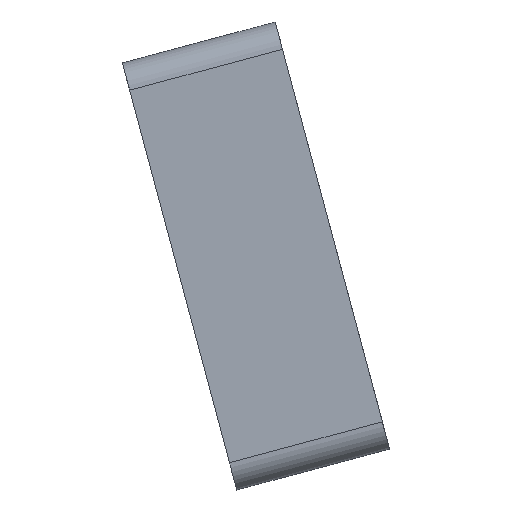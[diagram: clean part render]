
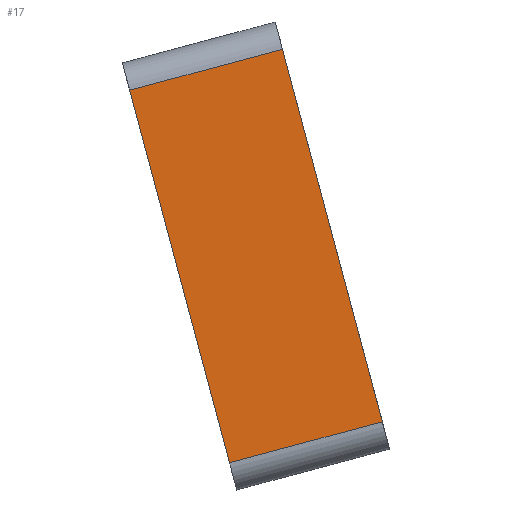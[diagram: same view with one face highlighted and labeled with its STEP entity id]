
A CAD part, left-side view. The second image highlights one B-rep face of the part: STEP entity #17.
In plain terms, the highlighted planar face has unit normal (-1, 0, 0).
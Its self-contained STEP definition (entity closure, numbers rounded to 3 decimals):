
#17 = ADVANCED_FACE('',(#18),#32,.F.);
#18 = FACE_BOUND('',#19,.F.);
#19 = EDGE_LOOP('',(#20,#55,#83,#111));
#20 = ORIENTED_EDGE('',*,*,#21,.F.);
#21 = EDGE_CURVE('',#22,#24,#26,.T.);
#22 = VERTEX_POINT('',#23);
#23 = CARTESIAN_POINT('',(-55.6,53.035,13.961));
#24 = VERTEX_POINT('',#25);
#25 = CARTESIAN_POINT('',(-55.6,67.167,66.701));
#26 = SURFACE_CURVE('',#27,(#31,#43),.PCURVE_S1.);
#27 = LINE('',#28,#29);
#28 = CARTESIAN_POINT('',(-55.6,52.,10.098));
#29 = VECTOR('',#30,1.);
#30 = DIRECTION('',(0.,0.259,0.966));
#31 = PCURVE('',#32,#37);
#32 = PLANE('',#33);
#33 = AXIS2_PLACEMENT_3D('',#34,#35,#36);
#34 = CARTESIAN_POINT('',(-55.6,52.,10.098));
#35 = DIRECTION('',(1.,0.,0.));
#36 = DIRECTION('',(0.,0.259,0.966));
#37 = DEFINITIONAL_REPRESENTATION('',(#38),#42);
#38 = LINE('',#39,#40);
#39 = CARTESIAN_POINT('',(0.,0.));
#40 = VECTOR('',#41,1.);
#41 = DIRECTION('',(1.,0.));
#42 = ( GEOMETRIC_REPRESENTATION_CONTEXT(2) 
PARAMETRIC_REPRESENTATION_CONTEXT() REPRESENTATION_CONTEXT('2D SPACE',''
  ) );
#43 = PCURVE('',#44,#49);
#44 = PLANE('',#45);
#45 = AXIS2_PLACEMENT_3D('',#46,#47,#48);
#46 = CARTESIAN_POINT('',(-55.6,52.,10.098));
#47 = DIRECTION('',(0.,0.966,-0.259));
#48 = DIRECTION('',(0.,0.259,0.966));
#49 = DEFINITIONAL_REPRESENTATION('',(#50),#54);
#50 = LINE('',#51,#52);
#51 = CARTESIAN_POINT('',(0.,0.));
#52 = VECTOR('',#53,1.);
#53 = DIRECTION('',(1.,0.));
#54 = ( GEOMETRIC_REPRESENTATION_CONTEXT(2) 
PARAMETRIC_REPRESENTATION_CONTEXT() REPRESENTATION_CONTEXT('2D SPACE',''
  ) );
#55 = ORIENTED_EDGE('',*,*,#56,.T.);
#56 = EDGE_CURVE('',#22,#57,#59,.T.);
#57 = VERTEX_POINT('',#58);
#58 = CARTESIAN_POINT('',(-55.6,74.672,8.164));
#59 = SURFACE_CURVE('',#60,(#64,#71),.PCURVE_S1.);
#60 = LINE('',#61,#62);
#61 = CARTESIAN_POINT('',(-55.6,53.035,13.961));
#62 = VECTOR('',#63,1.);
#63 = DIRECTION('',(0.,0.966,-0.259));
#64 = PCURVE('',#32,#65);
#65 = DEFINITIONAL_REPRESENTATION('',(#66),#70);
#66 = LINE('',#67,#68);
#67 = CARTESIAN_POINT('',(4.,0.));
#68 = VECTOR('',#69,1.);
#69 = DIRECTION('',(0.,-1.));
#70 = ( GEOMETRIC_REPRESENTATION_CONTEXT(2) 
PARAMETRIC_REPRESENTATION_CONTEXT() REPRESENTATION_CONTEXT('2D SPACE',''
  ) );
#71 = PCURVE('',#72,#77);
#72 = CYLINDRICAL_SURFACE('',#73,4.);
#73 = AXIS2_PLACEMENT_3D('',#74,#75,#76);
#74 = CARTESIAN_POINT('',(-51.6,53.035,13.961));
#75 = DIRECTION('',(0.,0.966,-0.259));
#76 = DIRECTION('',(-1.,0.,0.));
#77 = DEFINITIONAL_REPRESENTATION('',(#78),#82);
#78 = LINE('',#79,#80);
#79 = CARTESIAN_POINT('',(-0.,0.));
#80 = VECTOR('',#81,1.);
#81 = DIRECTION('',(-0.,1.));
#82 = ( GEOMETRIC_REPRESENTATION_CONTEXT(2) 
PARAMETRIC_REPRESENTATION_CONTEXT() REPRESENTATION_CONTEXT('2D SPACE',''
  ) );
#83 = ORIENTED_EDGE('',*,*,#84,.T.);
#84 = EDGE_CURVE('',#57,#85,#87,.T.);
#85 = VERTEX_POINT('',#86);
#86 = CARTESIAN_POINT('',(-55.6,88.804,60.903));
#87 = SURFACE_CURVE('',#88,(#92,#99),.PCURVE_S1.);
#88 = LINE('',#89,#90);
#89 = CARTESIAN_POINT('',(-55.6,73.637,4.3));
#90 = VECTOR('',#91,1.);
#91 = DIRECTION('',(0.,0.259,0.966));
#92 = PCURVE('',#32,#93);
#93 = DEFINITIONAL_REPRESENTATION('',(#94),#98);
#94 = LINE('',#95,#96);
#95 = CARTESIAN_POINT('',(0.,-22.4));
#96 = VECTOR('',#97,1.);
#97 = DIRECTION('',(1.,0.));
#98 = ( GEOMETRIC_REPRESENTATION_CONTEXT(2) 
PARAMETRIC_REPRESENTATION_CONTEXT() REPRESENTATION_CONTEXT('2D SPACE',''
  ) );
#99 = PCURVE('',#100,#105);
#100 = PLANE('',#101);
#101 = AXIS2_PLACEMENT_3D('',#102,#103,#104);
#102 = CARTESIAN_POINT('',(-55.6,73.637,4.3));
#103 = DIRECTION('',(0.,0.966,-0.259));
#104 = DIRECTION('',(0.,0.259,0.966));
#105 = DEFINITIONAL_REPRESENTATION('',(#106),#110);
#106 = LINE('',#107,#108);
#107 = CARTESIAN_POINT('',(0.,0.));
#108 = VECTOR('',#109,1.);
#109 = DIRECTION('',(1.,0.));
#110 = ( GEOMETRIC_REPRESENTATION_CONTEXT(2) 
PARAMETRIC_REPRESENTATION_CONTEXT() REPRESENTATION_CONTEXT('2D SPACE',''
  ) );
#111 = ORIENTED_EDGE('',*,*,#112,.F.);
#112 = EDGE_CURVE('',#24,#85,#113,.T.);
#113 = SURFACE_CURVE('',#114,(#118,#125),.PCURVE_S1.);
#114 = LINE('',#115,#116);
#115 = CARTESIAN_POINT('',(-55.6,67.167,66.701));
#116 = VECTOR('',#117,1.);
#117 = DIRECTION('',(0.,0.966,-0.259));
#118 = PCURVE('',#32,#119);
#119 = DEFINITIONAL_REPRESENTATION('',(#120),#124);
#120 = LINE('',#121,#122);
#121 = CARTESIAN_POINT('',(58.6,0.));
#122 = VECTOR('',#123,1.);
#123 = DIRECTION('',(0.,-1.));
#124 = ( GEOMETRIC_REPRESENTATION_CONTEXT(2) 
PARAMETRIC_REPRESENTATION_CONTEXT() REPRESENTATION_CONTEXT('2D SPACE',''
  ) );
#125 = PCURVE('',#126,#131);
#126 = CYLINDRICAL_SURFACE('',#127,4.);
#127 = AXIS2_PLACEMENT_3D('',#128,#129,#130);
#128 = CARTESIAN_POINT('',(-51.6,67.167,66.701));
#129 = DIRECTION('',(0.,0.966,-0.259));
#130 = DIRECTION('',(-1.,0.,0.));
#131 = DEFINITIONAL_REPRESENTATION('',(#132),#136);
#132 = LINE('',#133,#134);
#133 = CARTESIAN_POINT('',(0.,0.));
#134 = VECTOR('',#135,1.);
#135 = DIRECTION('',(0.,1.));
#136 = ( GEOMETRIC_REPRESENTATION_CONTEXT(2) 
PARAMETRIC_REPRESENTATION_CONTEXT() REPRESENTATION_CONTEXT('2D SPACE',''
  ) );
